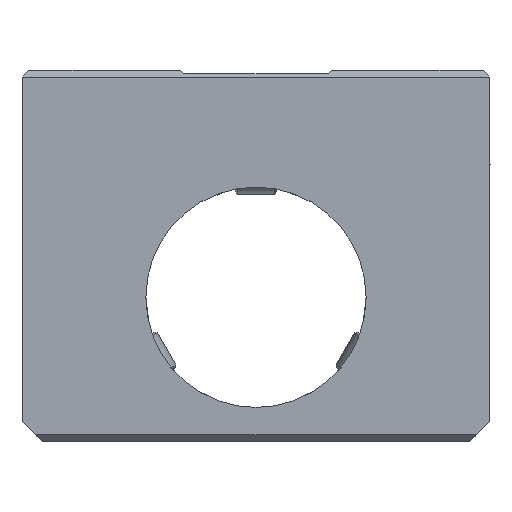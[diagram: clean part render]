
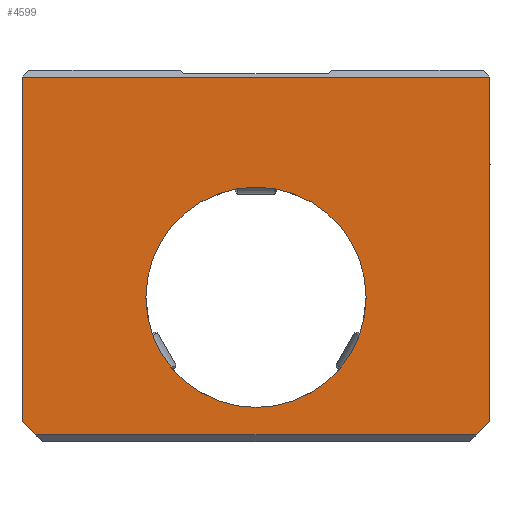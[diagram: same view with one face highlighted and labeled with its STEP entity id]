
A CAD part, left-side view. The second image highlights one B-rep face of the part: STEP entity #4599.
In plain terms, the highlighted planar face has unit normal (-1, 0, 0).
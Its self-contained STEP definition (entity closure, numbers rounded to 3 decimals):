
#3668=CARTESIAN_POINT('',(-75.0,-34.0,32.0));
#3669=VERTEX_POINT('',#3668);
#3678=CARTESIAN_POINT('',(-75.0,-34.0,-18.));
#3679=VERTEX_POINT('',#3678);
#3680=CARTESIAN_POINT('',(-75.0,-34.0,32.0));
#3681=DIRECTION('',(0.0,0.0,-1.0));
#3682=VECTOR('',#3681,50.);
#3683=LINE('',#3680,#3682);
#3684=EDGE_CURVE('',#3669,#3679,#3683,.T.);
#4392=CARTESIAN_POINT('',(-75.0,34.0,32.0));
#4393=VERTEX_POINT('',#4392);
#4400=CARTESIAN_POINT('',(-75.0,34.0,32.0));
#4401=DIRECTION('',(0.0,-1.0,0.0));
#4402=VECTOR('',#4401,68.0);
#4403=LINE('',#4400,#4402);
#4404=EDGE_CURVE('',#4393,#3669,#4403,.T.);
#4521=CARTESIAN_POINT('',(-75.0,-32.,-20.));
#4522=VERTEX_POINT('',#4521);
#4523=CARTESIAN_POINT('',(-75.0,-34.0,-18.));
#4524=DIRECTION('',(0.0,0.707,-0.707));
#4525=VECTOR('',#4524,2.828);
#4526=LINE('',#4523,#4525);
#4527=EDGE_CURVE('',#3679,#4522,#4526,.T.);
#4544=CARTESIAN_POINT('',(-75.0,32.,-20.));
#4545=VERTEX_POINT('',#4544);
#4554=CARTESIAN_POINT('',(-75.0,-32.,-20.));
#4555=DIRECTION('',(0.0,1.0,0.0));
#4556=VECTOR('',#4555,64.);
#4557=LINE('',#4554,#4556);
#4558=EDGE_CURVE('',#4522,#4545,#4557,.T.);
#4563=CARTESIAN_POINT('',(-75.0,-22.5,32.75));
#4564=DIRECTION('',(1.0,0.0,0.0));
#4565=DIRECTION('',(0.0,0.0,-1.0));
#4566=AXIS2_PLACEMENT_3D('',#4563,#4564,#4565);
#4567=PLANE('',#4566);
#4568=ORIENTED_EDGE('',*,*,#4558,.F.);
#4569=ORIENTED_EDGE('',*,*,#4527,.F.);
#4570=ORIENTED_EDGE('',*,*,#3684,.F.);
#4571=ORIENTED_EDGE('',*,*,#4404,.F.);
#4572=CARTESIAN_POINT('',(-75.0,34.0,-18.));
#4573=VERTEX_POINT('',#4572);
#4574=CARTESIAN_POINT('',(-75.0,34.0,-18.));
#4575=DIRECTION('',(0.0,0.0,1.0));
#4576=VECTOR('',#4575,50.);
#4577=LINE('',#4574,#4576);
#4578=EDGE_CURVE('',#4573,#4393,#4577,.T.);
#4579=ORIENTED_EDGE('',*,*,#4578,.F.);
#4580=CARTESIAN_POINT('',(-75.0,32.,-20.));
#4581=DIRECTION('',(0.0,0.707,0.707));
#4582=VECTOR('',#4581,2.828);
#4583=LINE('',#4580,#4582);
#4584=EDGE_CURVE('',#4545,#4573,#4583,.T.);
#4585=ORIENTED_EDGE('',*,*,#4584,.F.);
#4586=EDGE_LOOP('',(#4568,#4569,#4570,#4571,#4579,#4585));
#4587=FACE_OUTER_BOUND('',#4586,.T.);
#4588=CARTESIAN_POINT('',(-75.0,16.0,0.));
#4589=VERTEX_POINT('',#4588);
#4590=CARTESIAN_POINT('',(-75.0,0.0,0.));
#4591=DIRECTION('',(1.0,0.0,0.0));
#4592=DIRECTION('',(0.0,-1.0,0.0));
#4593=AXIS2_PLACEMENT_3D('',#4590,#4591,#4592);
#4594=CIRCLE('',#4593,16.0);
#4595=EDGE_CURVE('',#4589,#4589,#4594,.T.);
#4596=ORIENTED_EDGE('',*,*,#4595,.T.);
#4597=EDGE_LOOP('',(#4596));
#4598=FACE_BOUND('',#4597,.T.);
#4599=ADVANCED_FACE('',(#4587,#4598),#4567,.F.);
